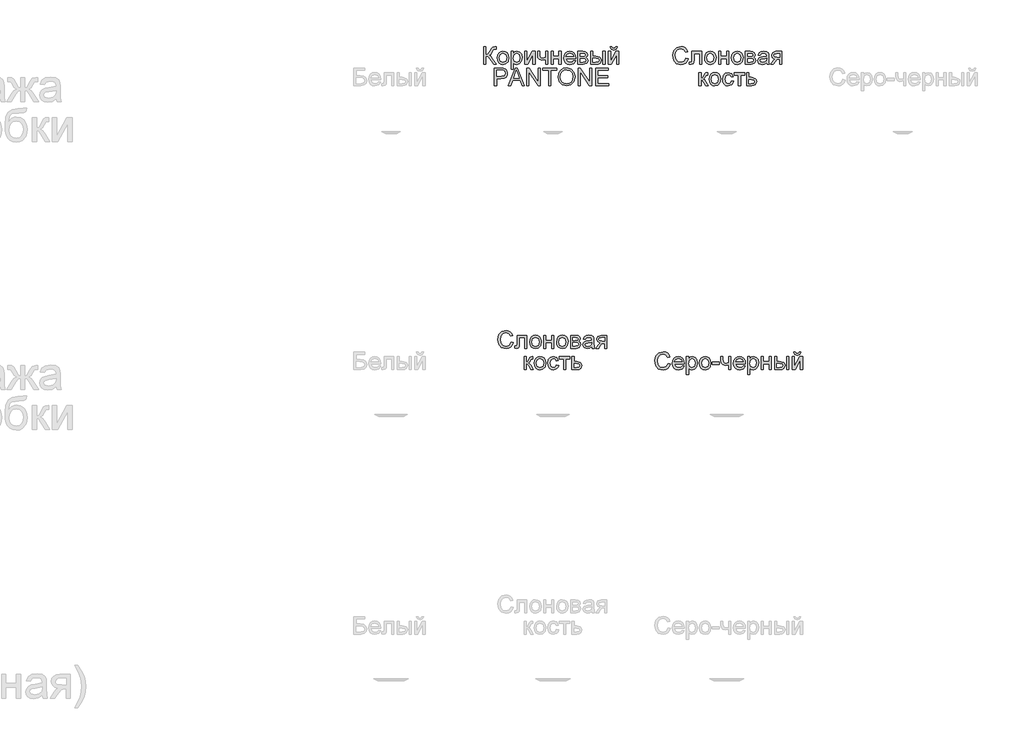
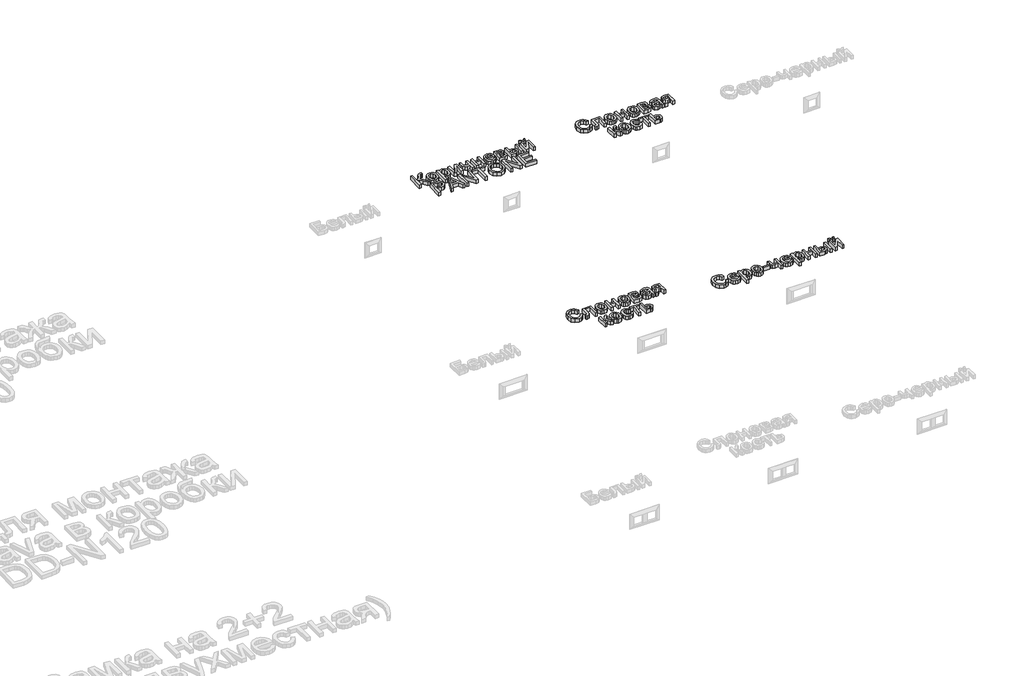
# One storey, part 45 of 47: 4 proxies.
"""IFC4 building model written with IfcOpenShell, lengths in millimetres."""

from ifc_helpers import new_model, si_unit, origin, origin_with_axes, place, context, project, spatial, polyline, outline, extrude, element, save

model = new_model("IFC4")

# Units and contexts
model_context = context("Model", 3, world=origin())
ifc_project = project(units=[si_unit("LENGTHUNIT", "METRE", prefix="MILLI")], contexts=[model_context])

# Site, building, storey
site = spatial("IfcSite", under=ifc_project)
building = spatial("IfcBuilding", under=site)
storey = spatial("IfcBuildingStorey", under=building, Name="Этаж 01", Elevation=0.0)

# Proxies
placement = place(None, origin())
element("IfcBuildingElementProxy", 1, Name="80 мм Arial", ObjectType="80 мм Arial", at=placement, inside=storey, context=model_context, shape_type="SweptSolid", body=[
    extrude(outline(polyline([(429.3644869, 4434.5225235), (439.4101179, 4434.5225235), (439.4101179, 4399.362815), (450.6427815, 4402.0213755), (458.4811205, 4415.4711413), (464.0238759, 4426.7038049), (470.3023953, 4432.2661806), (479.278716, 4434.5225235), (485.8711613, 4434.4048013), (485.8711613, 4424.3591703), (483.6540592, 4424.4180314), (481.436957, 4424.4768925), (473.5888078, 4422.0635866), (467.6242144, 4411.72365), (460.5118291, 4399.1273705), (453.5760273, 4394.9678514), (461.3309797, 4390.425735), (468.9780201, 4380.958905), (485.8711613, 4354.1574754), (474.2166597, 4354.1574754), (459.9330281, 4376.7993859), (449.8775869, 4388.6206607), (439.4101179, 4391.8285917), (439.4101179, 4354.1574754), (429.3644869, 4354.1574754), (429.3644869, 4434.5225235)])), origin_with_axes(), (0.0, 0.0, 1.0), 20.0),
    extrude(outline(polyline([(490.8939768, 4383.6665165), (493.0669332, 4397.8961921), (499.5858021, 4407.8976773), (507.6399653, 4412.7978654), (517.2833786, 4414.4312615), (527.8366868, 4412.4422462), (536.2660896, 4406.4752002), (541.7916772, 4397.0010126), (543.6335397, 4384.4905722), (540.3765577, 4366.6164123), (530.8901074, 4356.50211), (517.2833786, 4352.9017715), (506.602538, 4354.8834292), (498.1829454, 4360.8284023), (492.716219, 4370.5012462), (490.8939768, 4383.6665165)]), holes=[polyline([(500.9396079, 4383.6861369), (505.5896363, 4368.1173709), (517.2833786, 4362.9474026), (528.9378802, 4368.1468014), (533.5879087, 4384.0000629), (528.9084497, 4399.2156622), (517.2833786, 4404.3856305), (505.5896363, 4399.2352826), (500.9396079, 4383.6861369)])]), origin_with_axes(), (0.0, 0.0, 1.0), 20.0),
    extrude(outline(polyline([(554.9348746, 4331.5548056), (554.9348746, 4413.1755576), (564.9805056, 4413.1755576), (564.9805056, 4403.3261303), (571.9261177, 4411.6549787), (581.304656, 4414.4312615), (594.0382781, 4410.5464276), (602.3573163, 4399.5982595), (605.1630296, 4384.1177851), (601.9943394, 4367.8426856), (592.7923844, 4356.7571749), (580.0881929, 4352.9017715), (571.3473166, 4355.4818506), (564.9805056, 4362.0056246), (564.9805056, 4331.5548056), (554.9348746, 4331.5548056)]), holes=[polyline([(564.9805056, 4383.1956276), (569.3264182, 4367.8917366), (579.8723687, 4362.9474026), (590.6341434, 4368.0683199), (595.1173986, 4383.9412017), (590.7420554, 4399.2843335), (580.2843966, 4404.3856305), (569.6207238, 4398.9605973), (564.9805056, 4383.1956276)])]), origin_with_axes(), (0.0, 0.0, 1.0), 20.0),
    extrude(outline(polyline([(616.4643645, 4413.1755576), (626.5099955, 4413.1755576), (626.5099955, 4368.1664218), (651.1924249, 4413.1755576), (664.1811119, 4413.1755576), (664.1811119, 4354.1574754), (654.1354808, 4354.1574754), (654.1354808, 4398.891926), (629.6100145, 4354.1574754), (616.4643645, 4354.1574754), (616.4643645, 4413.1755576)])), origin_with_axes(), (0.0, 0.0, 1.0), 20.0),
    extrude(outline(polyline([(675.4824467, 4413.1755576), (685.5280778, 4413.1755576), (685.5280778, 4401.8546024), (686.3423232, 4391.2399805), (690.2565877, 4385.4912112), (698.0262554, 4383.0386646), (711.8978592, 4386.0798224), (711.8978592, 4413.1755576), (721.9434902, 4413.1755576), (721.9434902, 4354.1574754), (711.8978592, 4354.1574754), (711.8978592, 4376.4462192), (695.3382643, 4372.9930336), (683.9486377, 4376.593372), (677.2482803, 4385.4127297), (675.4824467, 4396.890648), (675.4824467, 4413.1755576)])), origin_with_axes(), (0.0, 0.0, 1.0), 20.0),
    extrude(outline(polyline([(737.0119367, 4413.1755576), (747.0575677, 4413.1755576), (747.0575677, 4390.5728878), (773.4273491, 4390.5728878), (773.4273491, 4413.1755576), (783.4729802, 4413.1755576), (783.4729802, 4354.1574754), (773.4273491, 4354.1574754), (773.4273491, 4380.5272568), (747.0575677, 4380.5272568), (747.0575677, 4354.1574754), (737.0119367, 4354.1574754), (737.0119367, 4413.1755576)])), origin_with_axes(), (0.0, 0.0, 1.0), 20.0),
    extrude(outline(polyline([(839.8619324, 4371.7373297), (849.7113597, 4370.4816258), (840.4995945, 4357.5125592), (823.3415782, 4352.9017715), (811.5546391, 4354.8907869), (802.4851217, 4360.8578328), (796.7020167, 4370.4154071), (794.774315, 4383.1760072), (796.7216371, 4396.365803), (802.5636032, 4406.2299456), (811.5104933, 4412.3809325), (822.7725874, 4414.4312615), (833.6839674, 4412.3858376), (842.4027707, 4406.2495659), (848.1196569, 4396.4050437), (850.0252856, 4383.2348683), (849.9664245, 4380.5272568), (804.8199461, 4380.5272568), (810.5981459, 4367.4797087), (823.537782, 4362.9474026), (833.3872093, 4365.0467825), (839.8619324, 4371.7373297)]), holes=[polyline([(804.8199461, 4390.5728878), (839.9796546, 4390.5728878), (835.9574781, 4399.676741), (822.7333467, 4404.3856305), (810.3627015, 4400.628329), (804.8199461, 4390.5728878)])]), origin_with_axes(), (0.0, 0.0, 1.0), 20.0),
    extrude(outline(polyline([(860.0709166, 4413.1755576), (882.2026975, 4413.1755576), (894.3378982, 4411.8315621), (901.1657881, 4406.9068484), (904.0205523, 4398.3229352), (902.2939595, 4391.3478926), (897.0945606, 4386.374128), (903.843969, 4380.9294745), (906.5319601, 4371.4626445), (900.7831908, 4358.4150964), (885.597022, 4354.1574754), (860.0709166, 4354.1574754), (860.0709166, 4413.1755576)]), holes=[polyline([(870.1165477, 4364.2031064), (882.438142, 4364.2031064), (893.3666898, 4366.0179909), (896.4863291, 4372.2867001), (894.7695464, 4377.1231221), (890.2961014, 4379.9386456), (881.4571233, 4380.5272568), (870.1165477, 4380.5272568), (870.1165477, 4364.2031064)]), polyline([(870.1165477, 4390.5728878), (880.0444564, 4390.5728878), (888.2359622, 4391.0830175), (892.2188979, 4393.1235363), (893.9749213, 4396.8121665), (890.8945227, 4401.7368801), (880.3583824, 4403.1299266), (870.1165477, 4403.1299266), (870.1165477, 4390.5728878)])]), origin_with_axes(), (0.0, 0.0, 1.0), 20.0),
    extrude(outline(polyline([(974.3399694, 4413.1755576), (984.3856005, 4413.1755576), (984.3856005, 4354.1574754), (974.3399694, 4354.1574754), (974.3399694, 4413.1755576)])), origin_with_axes(), (0.0, 0.0, 1.0), 20.0),
    extrude(outline(polyline([(919.0889989, 4413.1755576), (929.1346299, 4413.1755576), (929.1346299, 4391.8285917), (941.554326, 4391.8285917), (960.2427314, 4386.795966), (965.1649925, 4380.8092997), (966.8057462, 4372.9145521), (961.3022315, 4359.6609901), (954.1530581, 4355.5333541), (943.7125671, 4354.1574754), (919.0889989, 4354.1574754), (919.0889989, 4413.1755576)]), holes=[polyline([(929.1346299, 4364.2031064), (939.4549461, 4364.2031064), (952.7771794, 4366.3122965), (956.7601152, 4372.8949317), (953.807249, 4379.0753492), (940.7695111, 4381.7829607), (929.1346299, 4381.7829607), (929.1346299, 4364.2031064)])]), origin_with_axes(), (0.0, 0.0, 1.0), 20.0),
    extrude(outline(polyline([(999.454047, 4413.1755576), (1009.499678, 4413.1755576), (1009.499678, 4368.1664218), (1034.1821073, 4413.1755576), (1047.1707943, 4413.1755576), (1047.1707943, 4354.1574754), (1037.1251633, 4354.1574754), (1037.1251633, 4398.891926), (1012.5996969, 4354.1574754), (999.454047, 4354.1574754), (999.454047, 4413.1755576)])), origin_with_axes(), (0.0, 0.0, 1.0), 20.0),
    extrude(outline(polyline([(1032.1023478, 4434.5225235), (1039.636571, 4434.5225235), (1034.7609083, 4423.3487211), (1023.9402726, 4419.454077), (1012.2269099, 4423.3192905), (1006.9882702, 4434.5225235), (1014.5224935, 4434.5225235), (1017.3478272, 4428.8620459), (1023.0377354, 4426.9883003), (1029.2770141, 4428.8031848), (1032.1023478, 4434.5225235)])), origin_with_axes(), (0.0, 0.0, 1.0), 20.0),
    extrude(outline(polyline([(477.7090861, 4256.5776211), (477.7090861, 4336.9426693), (507.4928125, 4336.9426693), (519.5004808, 4336.1774747), (529.2616164, 4332.4201733), (535.5891867, 4324.6505055), (537.9828722, 4313.6925272), (536.366644, 4304.2207921), (531.5179593, 4296.328497), (522.4508944, 4291.0015657), (508.1795255, 4289.2259219), (487.7547172, 4289.2259219), (487.7547172, 4256.5776211), (477.7090861, 4256.5776211)]), holes=[polyline([(487.7547172, 4299.271553), (508.7681367, 4299.271553), (523.561898, 4302.9601831), (527.9372412, 4313.3393605), (525.3571622, 4321.6583986), (518.5783233, 4326.2103252), (508.5326922, 4326.8970382), (487.7547172, 4326.8970382), (487.7547172, 4299.271553)])]), origin_with_axes(), (0.0, 0.0, 1.0), 20.0),
    extrude(outline(polyline([(542.4366969, 4256.5776211), (574.5160069, 4336.9426693), (583.0704896, 4336.9426693), (615.1497995, 4256.5776211), (604.5351777, 4256.5776211), (595.3332227, 4281.6916987), (562.2336534, 4281.6916987), (553.0513188, 4256.5776211), (542.4366969, 4256.5776211)]), holes=[polyline([(565.9222835, 4291.7373297), (591.664213, 4291.7373297), (584.4242953, 4311.4950454), (578.7932482, 4326.8970382), (573.7900531, 4313.2216382), (565.9222835, 4291.7373297)])]), origin_with_axes(), (0.0, 0.0, 1.0), 20.0),
    extrude(outline(polyline([(625.8821436, 4256.5776211), (625.8821436, 4336.9426693), (636.6341081, 4336.9426693), (678.6217064, 4273.2745586), (678.6217064, 4336.9426693), (688.6673375, 4336.9426693), (688.6673375, 4256.5776211), (677.915373, 4256.5776211), (635.9277746, 4320.2653521), (635.9277746, 4256.5776211), (625.8821436, 4256.5776211)])), origin_with_axes(), (0.0, 0.0, 1.0), 20.0),
    extrude(outline(polyline([(726.3384538, 4256.5776211), (726.3384538, 4326.8970382), (699.9686723, 4326.8970382), (699.9686723, 4336.9426693), (762.7538662, 4336.9426693), (762.7538662, 4326.8970382), (736.3840848, 4326.8970382), (736.3840848, 4256.5776211), (726.3384538, 4256.5776211)])), origin_with_axes(), (0.0, 0.0, 1.0), 20.0),
    extrude(outline(polyline([(770.2880894, 4295.7006451), (772.9662704, 4313.471798), (781.0008131, 4326.9166586), (793.2684514, 4335.3779445), (808.6459188, 4338.1983731), (828.639079, 4332.9008724), (842.2163771, 4318.1267315), (846.8860259, 4296.6228026), (841.9711225, 4274.8245681), (828.0406576, 4260.2662513), (808.5870577, 4255.3219173), (788.3780734, 4260.7861912), (774.8792567, 4275.6976747), (770.2880894, 4295.7006451)]), holes=[polyline([(780.3337205, 4295.6025432), (782.3423562, 4283.0307891), (788.3682632, 4273.451142), (797.425518, 4267.3884467), (808.5281966, 4265.3675483), (819.7927433, 4267.4080671), (828.8647133, 4273.5296235), (834.8464745, 4283.4035762), (836.8403949, 4296.7012841), (833.42645, 4313.2804993), (823.4494903, 4324.2580981), (808.7047799, 4328.1527421), (797.8988595, 4326.2765439), (788.7116198, 4320.6479494), (782.4281953, 4310.6342015), (780.3337205, 4295.6025432)])]), origin_with_axes(), (0.0, 0.0, 1.0), 20.0),
    extrude(outline(polyline([(860.6987686, 4256.5776211), (860.6987686, 4336.9426693), (871.450733, 4336.9426693), (913.4383314, 4273.2745586), (913.4383314, 4336.9426693), (923.4839624, 4336.9426693), (923.4839624, 4256.5776211), (912.731998, 4256.5776211), (870.7443996, 4320.2653521), (870.7443996, 4256.5776211), (860.6987686, 4256.5776211)])), origin_with_axes(), (0.0, 0.0, 1.0), 20.0),
    extrude(outline(polyline([(941.0638167, 4256.5776211), (941.0638167, 4336.9426693), (998.826195, 4336.9426693), (998.826195, 4326.8970382), (951.1094477, 4326.8970382), (951.1094477, 4303.0386646), (996.3147873, 4303.0386646), (996.3147873, 4292.9930336), (951.1094477, 4292.9930336), (951.1094477, 4266.6232522), (1000.0818989, 4266.6232522), (1000.0818989, 4256.5776211), (941.0638167, 4256.5776211)])), origin_with_axes(), (0.0, 0.0, 1.0), 20.0),
])
element("IfcBuildingElementProxy", 2, Name="80 мм Arial", ObjectType="80 мм Arial", at=placement, inside=storey, context=model_context, shape_type="SweptSolid", body=[
    extrude(outline(polyline([(1354.1498044, 4382.7247386), (1364.1954354, 4380.1348494), (1359.5601223, 4368.4288443), (1352.2858689, 4359.8768142), (1342.7307473, 4354.6455322), (1331.252829, 4352.9017715), (1310.3473215, 4358.1796519), (1298.0845883, 4373.4639225), (1293.8760183, 4394.948231), (1298.6339588, 4416.7857063), (1312.162206, 4430.9418055), (1331.4686531, 4435.7782274), (1342.48304, 4434.2135027), (1351.5893457, 4429.5193284), (1358.5030747, 4421.9851051), (1362.9397315, 4411.9002334), (1352.8941005, 4409.5065479), (1344.6535438, 4421.8575727), (1331.0762456, 4425.7325964), (1315.3603268, 4421.4357347), (1306.482108, 4409.8989553), (1303.9216493, 4394.9678514), (1306.9529969, 4377.6626824), (1316.3903964, 4366.6066021), (1330.25219, 4362.9474026), (1345.6247523, 4367.9309773), (1354.1498044, 4382.7247386)])), origin_with_axes(), (0.0, 0.0, 1.0), 20.0),
    extrude(outline(polyline([(1381.7752897, 4413.1755576), (1426.9806292, 4413.1755576), (1426.9806292, 4354.2163365), (1416.9349982, 4354.2163365), (1416.9349982, 4403.1299266), (1391.8209207, 4403.1299266), (1391.8209207, 4374.9746913), (1391.1440178, 4361.9860043), (1387.4259571, 4356.50211), (1378.63603, 4354.1574754), (1370.4739548, 4354.6676051), (1370.4739548, 4364.2031064), (1374.9670202, 4364.2031064), (1379.5091366, 4364.8211482), (1381.3240211, 4366.7831855), (1381.7752897, 4375.5436821), (1381.7752897, 4413.1755576)])), origin_with_axes(), (0.0, 0.0, 1.0), 20.0),
    extrude(outline(polyline([(1439.537668, 4383.6665165), (1441.7106243, 4397.8961921), (1448.2294933, 4407.8976773), (1456.2836564, 4412.7978654), (1465.9270698, 4414.4312615), (1476.480378, 4412.4422462), (1484.9097807, 4406.4752002), (1490.4353683, 4397.0010126), (1492.2772308, 4384.4905722), (1489.0202489, 4366.6164123), (1479.5337985, 4356.50211), (1465.9270698, 4352.9017715), (1455.2462292, 4354.8834292), (1446.8266366, 4360.8284023), (1441.3599102, 4370.5012462), (1439.537668, 4383.6665165)]), holes=[polyline([(1449.583299, 4383.6861369), (1454.2333274, 4368.1173709), (1465.9270698, 4362.9474026), (1477.5815714, 4368.1468014), (1482.2315998, 4384.0000629), (1477.5521408, 4399.2156622), (1465.9270698, 4404.3856305), (1454.2333274, 4399.2352826), (1449.583299, 4383.6861369)])]), origin_with_axes(), (0.0, 0.0, 1.0), 20.0),
    extrude(outline(polyline([(1503.5785657, 4413.1755576), (1513.6241967, 4413.1755576), (1513.6241967, 4390.5728878), (1539.9939782, 4390.5728878), (1539.9939782, 4413.1755576), (1550.0396092, 4413.1755576), (1550.0396092, 4354.1574754), (1539.9939782, 4354.1574754), (1539.9939782, 4380.5272568), (1513.6241967, 4380.5272568), (1513.6241967, 4354.1574754), (1503.5785657, 4354.1574754), (1503.5785657, 4413.1755576)])), origin_with_axes(), (0.0, 0.0, 1.0), 20.0),
    extrude(outline(polyline([(1562.5966479, 4383.6665165), (1564.7696043, 4397.8961921), (1571.2884732, 4407.8976773), (1579.3426364, 4412.7978654), (1588.9860497, 4414.4312615), (1599.5393579, 4412.4422462), (1607.9687607, 4406.4752002), (1613.4943483, 4397.0010126), (1615.3362108, 4384.4905722), (1612.0792288, 4366.6164123), (1602.5927785, 4356.50211), (1588.9860497, 4352.9017715), (1578.3052091, 4354.8834292), (1569.8856165, 4360.8284023), (1564.4188901, 4370.5012462), (1562.5966479, 4383.6665165)]), holes=[polyline([(1572.642279, 4383.6861369), (1577.2923074, 4368.1173709), (1588.9860497, 4362.9474026), (1600.6405513, 4368.1468014), (1605.2905798, 4384.0000629), (1600.6111208, 4399.2156622), (1588.9860497, 4404.3856305), (1577.2923074, 4399.2352826), (1572.642279, 4383.6861369)])]), origin_with_axes(), (0.0, 0.0, 1.0), 20.0),
    extrude(outline(polyline([(1626.6375457, 4413.1755576), (1648.7693265, 4413.1755576), (1660.9045272, 4411.8315621), (1667.7324171, 4406.9068484), (1670.5871814, 4398.3229352), (1668.8605885, 4391.3478926), (1663.6611897, 4386.374128), (1670.410598, 4380.9294745), (1673.0985891, 4371.4626445), (1667.3498198, 4358.4150964), (1652.163651, 4354.1574754), (1626.6375457, 4354.1574754), (1626.6375457, 4413.1755576)]), holes=[polyline([(1636.6831767, 4390.5728878), (1646.6110855, 4390.5728878), (1654.8025912, 4391.0830175), (1658.7855269, 4393.1235363), (1660.5415503, 4396.8121665), (1657.4611518, 4401.7368801), (1646.9250114, 4403.1299266), (1636.6831767, 4403.1299266), (1636.6831767, 4390.5728878)]), polyline([(1636.6831767, 4364.2031064), (1649.004771, 4364.2031064), (1659.9333188, 4366.0179909), (1663.0529581, 4372.2867001), (1661.3361754, 4377.1231221), (1656.8627304, 4379.9386456), (1648.0237523, 4380.5272568), (1636.6831767, 4380.5272568), (1636.6831767, 4364.2031064)])]), origin_with_axes(), (0.0, 0.0, 1.0), 20.0),
    extrude(outline(polyline([(1723.3267442, 4361.6916987), (1713.585229, 4354.8834292), (1702.8234543, 4352.9017715), (1688.2357069, 4357.6695222), (1683.1442201, 4369.8537739), (1685.0670167, 4377.800025), (1690.1192628, 4383.5684147), (1697.1531665, 4386.8646373), (1705.8449918, 4388.3754061), (1723.2678831, 4391.8285917), (1723.3267442, 4394.0653143), (1720.5602716, 4401.4818153), (1709.4551404, 4404.3856305), (1699.2917872, 4402.4530237), (1694.445555, 4395.5957034), (1684.399924, 4396.8514072), (1688.7458366, 4406.6615938), (1697.496523, 4412.4103631), (1710.750085, 4414.4312615), (1722.9245265, 4412.6458076), (1729.8014673, 4408.1625523), (1732.8818659, 4401.3444727), (1733.3723752, 4392.5545455), (1733.3723752, 4380.0563679), (1733.8825049, 4362.604046), (1735.883783, 4354.1574754), (1725.8381519, 4354.1574754), (1723.3267442, 4361.6916987)]), holes=[polyline([(1723.3267442, 4381.7829607), (1707.120316, 4378.7025621), (1698.4775417, 4377.0740712), (1694.5632773, 4374.4253208), (1693.1898511, 4370.5601073), (1696.181958, 4365.125264), (1704.962075, 4362.9474026), (1715.1254282, 4365.3508983), (1721.6786328, 4371.1683389), (1723.2678831, 4378.9380066), (1723.3267442, 4381.7829607)])]), origin_with_axes(), (0.0, 0.0, 1.0), 20.0),
    extrude(outline(polyline([(1792.3904574, 4413.1755576), (1792.3904574, 4354.1574754), (1782.3448264, 4354.1574754), (1782.3448264, 4376.7601452), (1776.8707423, 4376.7601452), (1769.4150005, 4375.484821), (1762.4105274, 4366.9107179), (1754.4054151, 4354.1574754), (1742.7901543, 4354.1574754), (1752.875026, 4370.2854221), (1761.4295087, 4378.643701), (1749.7357663, 4384.745637), (1745.929414, 4396.1254534), (1751.1288128, 4408.4470477), (1766.177639, 4413.1755576), (1792.3904574, 4413.1755576)]), holes=[polyline([(1782.3448264, 4403.1299266), (1769.1010746, 4403.1299266), (1758.3785407, 4400.8049124), (1755.975045, 4395.3602589), (1759.5165223, 4388.8757256), (1772.0637509, 4386.8057762), (1782.3448264, 4386.8057762), (1782.3448264, 4403.1299266)])]), origin_with_axes(), (0.0, 0.0, 1.0), 20.0),
    extrude(outline(polyline([(1413.7957385, 4315.5957034), (1423.8413695, 4315.5957034), (1423.8413695, 4290.4816258), (1430.5711575, 4292.2867001), (1436.0844823, 4302.8032201), (1440.6658395, 4311.8776427), (1444.7076363, 4314.8305088), (1452.055466, 4315.5957034), (1453.9782626, 4315.5957034), (1453.9782626, 4305.4912112), (1451.2706511, 4305.5500723), (1446.3655578, 4304.4905722), (1442.9123722, 4297.8785065), (1438.8607651, 4290.7268805), (1433.1806671, 4287.2246439), (1439.5180476, 4283.3152846), (1445.7377059, 4275.079633), (1456.4896703, 4256.5776211), (1445.0706132, 4256.5776211), (1434.5344729, 4274.6872255), (1429.2369721, 4282.3489812), (1423.8413695, 4284.2031064), (1423.8413695, 4256.5776211), (1413.7957385, 4256.5776211), (1413.7957385, 4315.5957034)])), origin_with_axes(), (0.0, 0.0, 1.0), 20.0),
    extrude(outline(polyline([(1460.256782, 4286.0866622), (1462.4297383, 4300.3163378), (1468.9486073, 4310.317823), (1477.0027704, 4315.2180112), (1486.6461838, 4316.8514072), (1497.1994919, 4314.8623919), (1505.6288947, 4308.8953459), (1511.1544823, 4299.4211583), (1512.9963448, 4286.9107179), (1509.7393629, 4269.036558), (1500.2529125, 4258.9222557), (1486.6461838, 4255.3219173), (1475.9653432, 4257.3035749), (1467.5457506, 4263.248548), (1462.0790241, 4272.9213919), (1460.256782, 4286.0866622)]), holes=[polyline([(1470.302413, 4286.1062826), (1474.9524414, 4270.5375166), (1486.6461838, 4265.3675483), (1498.3006854, 4270.5669471), (1502.9507138, 4286.4202086), (1498.2712548, 4301.6358079), (1486.6461838, 4306.8057762), (1474.9524414, 4301.6554283), (1470.302413, 4286.1062826)])]), origin_with_axes(), (0.0, 0.0, 1.0), 20.0),
    extrude(outline(polyline([(1561.968796, 4277.924587), (1572.014427, 4276.6688832), (1569.2136188, 4267.7342558), (1563.9504537, 4260.9823949), (1548.0187107, 4255.3219173), (1537.3329651, 4257.2962173), (1528.9771387, 4263.2191174), (1523.5839886, 4272.8306477), (1521.7862719, 4285.8708381), (1524.8568603, 4302.5579654), (1534.2157783, 4313.2804993), (1547.8813681, 4316.8514072), (1563.1558286, 4311.946314), (1570.7587231, 4298.0158491), (1560.7130921, 4296.7601452), (1556.0532535, 4304.2845583), (1547.9598496, 4306.8057762), (1536.3151582, 4301.8418218), (1531.831903, 4286.1455234), (1536.2170563, 4270.3020721), (1547.6851644, 4265.3675483), (1557.1519944, 4268.4479469), (1561.968796, 4277.924587)])), origin_with_axes(), (0.0, 0.0, 1.0), 20.0),
    extrude(outline(polyline([(1575.7815387, 4315.5957034), (1623.498286, 4315.5957034), (1623.498286, 4305.5500723), (1604.6627278, 4305.5500723), (1604.6627278, 4256.5776211), (1594.6170968, 4256.5776211), (1594.6170968, 4305.5500723), (1575.7815387, 4305.5500723), (1575.7815387, 4315.5957034)])), origin_with_axes(), (0.0, 0.0, 1.0), 20.0),
    extrude(outline(polyline([(1632.2882131, 4315.5957034), (1642.3338441, 4315.5957034), (1642.3338441, 4294.2487374), (1653.9098642, 4294.2487374), (1671.3719963, 4289.2161118), (1675.9631636, 4283.2294454), (1677.4935527, 4275.3346978), (1672.2843436, 4262.0811358), (1665.5128624, 4257.9534998), (1655.6168367, 4256.5776211), (1632.2882131, 4256.5776211), (1632.2882131, 4315.5957034)]), holes=[polyline([(1642.3338441, 4266.6232522), (1651.7123825, 4266.6232522), (1663.8279628, 4268.7324423), (1667.4479217, 4275.3150774), (1664.7697407, 4281.4954949), (1652.9092252, 4284.2031064), (1642.3338441, 4284.2031064), (1642.3338441, 4266.6232522)])]), origin_with_axes(), (0.0, 0.0, 1.0), 20.0),
])
element("IfcBuildingElementProxy", 3, Name="80 мм Arial", ObjectType="80 мм Arial", at=placement, inside=storey, context=model_context, shape_type="SweptSolid", body=[
    extrude(outline(polyline([(554.1498044, 3082.7247386), (564.1954354, 3080.1348494), (559.5601223, 3068.4288443), (552.2858689, 3059.8768142), (542.7307473, 3054.6455322), (531.252829, 3052.9017715), (510.3473215, 3058.1796519), (498.0845883, 3073.4639225), (493.8760183, 3094.948231), (498.6339588, 3116.7857063), (512.162206, 3130.9418055), (531.4686531, 3135.7782274), (542.48304, 3134.2135027), (551.5893457, 3129.5193284), (558.5030747, 3121.9851051), (562.9397315, 3111.9002334), (552.8941005, 3109.5065479), (544.6535438, 3121.8575727), (531.0762456, 3125.7325964), (515.3603268, 3121.4357347), (506.482108, 3109.8989553), (503.9216493, 3094.9678514), (506.9529969, 3077.6626824), (516.3903964, 3066.6066021), (530.25219, 3062.9474026), (545.6247523, 3067.9309773), (554.1498044, 3082.7247386)])), origin_with_axes(), (0.0, 0.0, 1.0), 20.0),
    extrude(outline(polyline([(581.7752897, 3113.1755576), (626.9806292, 3113.1755576), (626.9806292, 3054.2163365), (616.9349982, 3054.2163365), (616.9349982, 3103.1299266), (591.8209207, 3103.1299266), (591.8209207, 3074.9746913), (591.1440178, 3061.9860043), (587.4259571, 3056.50211), (578.63603, 3054.1574754), (570.4739548, 3054.6676051), (570.4739548, 3064.2031064), (574.9670202, 3064.2031064), (579.5091366, 3064.8211482), (581.3240211, 3066.7831855), (581.7752897, 3075.5436821), (581.7752897, 3113.1755576)])), origin_with_axes(), (0.0, 0.0, 1.0), 20.0),
    extrude(outline(polyline([(639.537668, 3083.6665165), (641.7106243, 3097.8961921), (648.2294933, 3107.8976773), (656.2836564, 3112.7978654), (665.9270698, 3114.4312615), (676.480378, 3112.4422462), (684.9097807, 3106.4752002), (690.4353683, 3097.0010126), (692.2772308, 3084.4905722), (689.0202489, 3066.6164123), (679.5337985, 3056.50211), (665.9270698, 3052.9017715), (655.2462292, 3054.8834292), (646.8266366, 3060.8284023), (641.3599102, 3070.5012462), (639.537668, 3083.6665165)]), holes=[polyline([(649.583299, 3083.6861369), (654.2333274, 3068.1173709), (665.9270698, 3062.9474026), (677.5815714, 3068.1468014), (682.2315998, 3084.0000629), (677.5521408, 3099.2156622), (665.9270698, 3104.3856305), (654.2333274, 3099.2352826), (649.583299, 3083.6861369)])]), origin_with_axes(), (0.0, 0.0, 1.0), 20.0),
    extrude(outline(polyline([(703.5785657, 3113.1755576), (713.6241967, 3113.1755576), (713.6241967, 3090.5728878), (739.9939782, 3090.5728878), (739.9939782, 3113.1755576), (750.0396092, 3113.1755576), (750.0396092, 3054.1574754), (739.9939782, 3054.1574754), (739.9939782, 3080.5272568), (713.6241967, 3080.5272568), (713.6241967, 3054.1574754), (703.5785657, 3054.1574754), (703.5785657, 3113.1755576)])), origin_with_axes(), (0.0, 0.0, 1.0), 20.0),
    extrude(outline(polyline([(762.5966479, 3083.6665165), (764.7696043, 3097.8961921), (771.2884732, 3107.8976773), (779.3426364, 3112.7978654), (788.9860497, 3114.4312615), (799.5393579, 3112.4422462), (807.9687607, 3106.4752002), (813.4943483, 3097.0010126), (815.3362108, 3084.4905722), (812.0792288, 3066.6164123), (802.5927785, 3056.50211), (788.9860497, 3052.9017715), (778.3052091, 3054.8834292), (769.8856165, 3060.8284023), (764.4188901, 3070.5012462), (762.5966479, 3083.6665165)]), holes=[polyline([(772.642279, 3083.6861369), (777.2923074, 3068.1173709), (788.9860497, 3062.9474026), (800.6405513, 3068.1468014), (805.2905798, 3084.0000629), (800.6111208, 3099.2156622), (788.9860497, 3104.3856305), (777.2923074, 3099.2352826), (772.642279, 3083.6861369)])]), origin_with_axes(), (0.0, 0.0, 1.0), 20.0),
    extrude(outline(polyline([(826.6375457, 3113.1755576), (848.7693265, 3113.1755576), (860.9045272, 3111.8315621), (867.7324171, 3106.9068484), (870.5871814, 3098.3229352), (868.8605885, 3091.3478926), (863.6611897, 3086.374128), (870.410598, 3080.9294745), (873.0985891, 3071.4626445), (867.3498198, 3058.4150964), (852.163651, 3054.1574754), (826.6375457, 3054.1574754), (826.6375457, 3113.1755576)]), holes=[polyline([(836.6831767, 3090.5728878), (846.6110855, 3090.5728878), (854.8025912, 3091.0830175), (858.7855269, 3093.1235363), (860.5415503, 3096.8121665), (857.4611518, 3101.7368801), (846.9250114, 3103.1299266), (836.6831767, 3103.1299266), (836.6831767, 3090.5728878)]), polyline([(836.6831767, 3064.2031064), (849.004771, 3064.2031064), (859.9333188, 3066.0179909), (863.0529581, 3072.2867001), (861.3361754, 3077.1231221), (856.8627304, 3079.9386456), (848.0237523, 3080.5272568), (836.6831767, 3080.5272568), (836.6831767, 3064.2031064)])]), origin_with_axes(), (0.0, 0.0, 1.0), 20.0),
    extrude(outline(polyline([(923.3267442, 3061.6916987), (913.585229, 3054.8834292), (902.8234543, 3052.9017715), (888.2357069, 3057.6695222), (883.1442201, 3069.8537739), (885.0670167, 3077.800025), (890.1192628, 3083.5684147), (897.1531665, 3086.8646373), (905.8449918, 3088.3754061), (923.2678831, 3091.8285917), (923.3267442, 3094.0653143), (920.5602716, 3101.4818153), (909.4551404, 3104.3856305), (899.2917872, 3102.4530237), (894.445555, 3095.5957034), (884.399924, 3096.8514072), (888.7458366, 3106.6615938), (897.496523, 3112.4103631), (910.750085, 3114.4312615), (922.9245265, 3112.6458076), (929.8014673, 3108.1625523), (932.8818659, 3101.3444727), (933.3723752, 3092.5545455), (933.3723752, 3080.0563679), (933.8825049, 3062.604046), (935.883783, 3054.1574754), (925.8381519, 3054.1574754), (923.3267442, 3061.6916987)]), holes=[polyline([(923.3267442, 3081.7829607), (907.120316, 3078.7025621), (898.4775417, 3077.0740712), (894.5632773, 3074.4253208), (893.1898511, 3070.5601073), (896.181958, 3065.125264), (904.962075, 3062.9474026), (915.1254282, 3065.3508983), (921.6786328, 3071.1683389), (923.2678831, 3078.9380066), (923.3267442, 3081.7829607)])]), origin_with_axes(), (0.0, 0.0, 1.0), 20.0),
    extrude(outline(polyline([(992.3904574, 3113.1755576), (992.3904574, 3054.1574754), (982.3448264, 3054.1574754), (982.3448264, 3076.7601452), (976.8707423, 3076.7601452), (969.4150005, 3075.484821), (962.4105274, 3066.9107179), (954.4054151, 3054.1574754), (942.7901543, 3054.1574754), (952.875026, 3070.2854221), (961.4295087, 3078.643701), (949.7357663, 3084.745637), (945.929414, 3096.1254534), (951.1288128, 3108.4470477), (966.177639, 3113.1755576), (992.3904574, 3113.1755576)]), holes=[polyline([(982.3448264, 3103.1299266), (969.1010746, 3103.1299266), (958.3785407, 3100.8049124), (955.975045, 3095.3602589), (959.5165223, 3088.8757256), (972.0637509, 3086.8057762), (982.3448264, 3086.8057762), (982.3448264, 3103.1299266)])]), origin_with_axes(), (0.0, 0.0, 1.0), 20.0),
    extrude(outline(polyline([(613.7957385, 3015.5957034), (623.8413695, 3015.5957034), (623.8413695, 2990.4816258), (630.5711575, 2992.2867001), (636.0844823, 3002.8032201), (640.6658395, 3011.8776427), (644.7076363, 3014.8305088), (652.055466, 3015.5957034), (653.9782626, 3015.5957034), (653.9782626, 3005.4912112), (651.2706511, 3005.5500723), (646.3655578, 3004.4905722), (642.9123722, 2997.8785065), (638.8607651, 2990.7268805), (633.1806671, 2987.2246439), (639.5180476, 2983.3152846), (645.7377059, 2975.079633), (656.4896703, 2956.5776211), (645.0706132, 2956.5776211), (634.5344729, 2974.6872255), (629.2369721, 2982.3489812), (623.8413695, 2984.2031064), (623.8413695, 2956.5776211), (613.7957385, 2956.5776211), (613.7957385, 3015.5957034)])), origin_with_axes(), (0.0, 0.0, 1.0), 20.0),
    extrude(outline(polyline([(660.256782, 2986.0866622), (662.4297383, 3000.3163378), (668.9486073, 3010.317823), (677.0027704, 3015.2180112), (686.6461838, 3016.8514072), (697.1994919, 3014.8623919), (705.6288947, 3008.8953459), (711.1544823, 2999.4211583), (712.9963448, 2986.9107179), (709.7393629, 2969.036558), (700.2529125, 2958.9222557), (686.6461838, 2955.3219173), (675.9653432, 2957.3035749), (667.5457506, 2963.248548), (662.0790241, 2972.9213919), (660.256782, 2986.0866622)]), holes=[polyline([(670.302413, 2986.1062826), (674.9524414, 2970.5375166), (686.6461838, 2965.3675483), (698.3006854, 2970.5669471), (702.9507138, 2986.4202086), (698.2712548, 3001.6358079), (686.6461838, 3006.8057762), (674.9524414, 3001.6554283), (670.302413, 2986.1062826)])]), origin_with_axes(), (0.0, 0.0, 1.0), 20.0),
    extrude(outline(polyline([(761.968796, 2977.924587), (772.014427, 2976.6688832), (769.2136188, 2967.7342558), (763.9504537, 2960.9823949), (748.0187107, 2955.3219173), (737.3329651, 2957.2962173), (728.9771387, 2963.2191174), (723.5839886, 2972.8306477), (721.7862719, 2985.8708381), (724.8568603, 3002.5579654), (734.2157783, 3013.2804993), (747.8813681, 3016.8514072), (763.1558286, 3011.946314), (770.7587231, 2998.0158491), (760.7130921, 2996.7601452), (756.0532535, 3004.2845583), (747.9598496, 3006.8057762), (736.3151582, 3001.8418218), (731.831903, 2986.1455234), (736.2170563, 2970.3020721), (747.6851644, 2965.3675483), (757.1519944, 2968.4479469), (761.968796, 2977.924587)])), origin_with_axes(), (0.0, 0.0, 1.0), 20.0),
    extrude(outline(polyline([(775.7815387, 3015.5957034), (823.498286, 3015.5957034), (823.498286, 3005.5500723), (804.6627278, 3005.5500723), (804.6627278, 2956.5776211), (794.6170968, 2956.5776211), (794.6170968, 3005.5500723), (775.7815387, 3005.5500723), (775.7815387, 3015.5957034)])), origin_with_axes(), (0.0, 0.0, 1.0), 20.0),
    extrude(outline(polyline([(832.2882131, 3015.5957034), (842.3338441, 3015.5957034), (842.3338441, 2994.2487374), (853.9098642, 2994.2487374), (871.3719963, 2989.2161118), (875.9631636, 2983.2294454), (877.4935527, 2975.3346978), (872.2843436, 2962.0811358), (865.5128624, 2957.9534998), (855.6168367, 2956.5776211), (832.2882131, 2956.5776211), (832.2882131, 3015.5957034)]), holes=[polyline([(842.3338441, 2966.6232522), (851.7123825, 2966.6232522), (863.8279628, 2968.7324423), (867.4479217, 2975.3150774), (864.7697407, 2981.4954949), (852.9092252, 2984.2031064), (842.3338441, 2984.2031064), (842.3338441, 2966.6232522)])]), origin_with_axes(), (0.0, 0.0, 1.0), 20.0),
])
element("IfcBuildingElementProxy", 4, Name="80 мм Arial", ObjectType="80 мм Arial", at=placement, inside=storey, context=model_context, shape_type="SweptSolid", body=[
    extrude(outline(polyline([(1272.5444141, 2985.1448843), (1282.5900451, 2982.5549951), (1277.954732, 2970.84899), (1270.6804787, 2962.2969599), (1261.125357, 2957.0656779), (1249.6474387, 2955.3219173), (1228.7419312, 2960.5997976), (1216.4791981, 2975.8840682), (1212.270628, 2997.3683768), (1217.0285685, 3019.205852), (1230.5568157, 3033.3619512), (1249.8632628, 3038.1983731), (1260.8776498, 3036.6336484), (1269.9839554, 3031.9394741), (1276.8976844, 3024.4052509), (1281.3343413, 3014.3203791), (1271.2887102, 3011.9266936), (1263.0481536, 3024.2777184), (1249.4708554, 3028.1527421), (1233.7549366, 3023.8558804), (1224.8767177, 3012.3191011), (1222.3162591, 2997.3879971), (1225.3476067, 2980.0828281), (1234.7850061, 2969.0267479), (1248.6467997, 2965.3675483), (1264.019362, 2970.351123), (1272.5444141, 2985.1448843)])), origin_with_axes(), (0.0, 0.0, 1.0), 20.0),
    extrude(outline(polyline([(1336.4675896, 2974.1574754), (1346.3170169, 2972.9017715), (1337.1052517, 2959.9327049), (1319.9472355, 2955.3219173), (1308.1602964, 2957.3109326), (1299.0907789, 2963.2779785), (1293.3076739, 2972.8355528), (1291.3799723, 2985.5961529), (1293.3272943, 2998.7859487), (1299.1692604, 3008.6500913), (1308.1161505, 3014.8010782), (1319.3782447, 3016.8514072), (1330.2896246, 3014.8059833), (1339.0084279, 3008.6697117), (1344.7253141, 2998.8251895), (1346.6309429, 2985.655014), (1346.5720817, 2982.9474026), (1301.4256033, 2982.9474026), (1307.2038032, 2969.8998545), (1320.1434392, 2965.3675483), (1329.9928665, 2967.4669282), (1336.4675896, 2974.1574754)]), holes=[polyline([(1301.4256033, 2992.9930336), (1336.5853118, 2992.9930336), (1332.5631354, 3002.0968867), (1319.3390039, 3006.8057762), (1306.9683587, 3003.0484748), (1301.4256033, 2992.9930336)])]), origin_with_axes(), (0.0, 0.0, 1.0), 20.0),
    extrude(outline(polyline([(1356.6765739, 2933.9749514), (1356.6765739, 3015.5957034), (1366.7222049, 3015.5957034), (1366.7222049, 3005.7462761), (1373.667817, 3014.0751244), (1383.0463553, 3016.8514072), (1395.7799774, 3012.9665734), (1404.0990156, 3002.0184052), (1406.904729, 2986.5379308), (1403.7360387, 2970.2628314), (1394.5340837, 2959.1773206), (1381.8298922, 2955.3219173), (1373.089016, 2957.9019963), (1366.7222049, 2964.4257704), (1366.7222049, 2933.9749514), (1356.6765739, 2933.9749514)]), holes=[polyline([(1366.7222049, 2985.6157733), (1371.0681175, 2970.3118823), (1381.6140681, 2965.3675483), (1392.3758427, 2970.4884657), (1396.8590979, 2986.3613475), (1392.4837547, 3001.7044792), (1382.0260959, 3006.8057762), (1371.3624231, 3001.3807431), (1366.7222049, 2985.6157733)])]), origin_with_axes(), (0.0, 0.0, 1.0), 20.0),
    extrude(outline(polyline([(1415.6946561, 2986.0866622), (1417.8676124, 3000.3163378), (1424.3864814, 3010.317823), (1432.4406445, 3015.2180112), (1442.0840579, 3016.8514072), (1452.637366, 3014.8623919), (1461.0667688, 3008.8953459), (1466.5923564, 2999.4211583), (1468.4342189, 2986.9107179), (1465.177237, 2969.036558), (1455.6907866, 2958.9222557), (1442.0840579, 2955.3219173), (1431.4032173, 2957.3035749), (1422.9836247, 2963.248548), (1417.5168982, 2972.9213919), (1415.6946561, 2986.0866622)]), holes=[polyline([(1425.7402871, 2986.1062826), (1430.3903155, 2970.5375166), (1442.0840579, 2965.3675483), (1453.7385595, 2970.5669471), (1458.3885879, 2986.4202086), (1453.7091289, 3001.6358079), (1442.0840579, 3006.8057762), (1430.3903155, 3001.6554283), (1425.7402871, 2986.1062826)])]), origin_with_axes(), (0.0, 0.0, 1.0), 20.0),
    extrude(outline(polyline([(1474.7127383, 2980.4359948), (1474.7127383, 2990.4816258), (1506.1053352, 2990.4816258), (1506.1053352, 2980.4359948), (1474.7127383, 2980.4359948)])), origin_with_axes(), (0.0, 0.0, 1.0), 20.0),
    extrude(outline(polyline([(1513.6395585, 3015.5957034), (1523.6851895, 3015.5957034), (1523.6851895, 3004.2747481), (1524.499435, 2993.6601263), (1528.4136994, 2987.9113569), (1536.1833671, 2985.4588103), (1550.0549709, 2988.4999681), (1550.0549709, 3015.5957034), (1560.1006019, 3015.5957034), (1560.1006019, 2956.5776211), (1550.0549709, 2956.5776211), (1550.0549709, 2978.866365), (1533.495376, 2975.4131793), (1522.1057495, 2979.0135178), (1515.4053921, 2987.8328755), (1513.6395585, 2999.3107937), (1513.6395585, 3015.5957034)])), origin_with_axes(), (0.0, 0.0, 1.0), 20.0),
    extrude(outline(polyline([(1616.4895541, 2974.1574754), (1626.3389814, 2972.9017715), (1617.1272163, 2959.9327049), (1599.9692, 2955.3219173), (1588.1822609, 2957.3109326), (1579.1127434, 2963.2779785), (1573.3296385, 2972.8355528), (1571.4019368, 2985.5961529), (1573.3492588, 2998.7859487), (1579.1912249, 3008.6500913), (1588.1381151, 3014.8010782), (1599.4002092, 3016.8514072), (1610.3115892, 3014.8059833), (1619.0303925, 3008.6697117), (1624.7472787, 2998.8251895), (1626.6529074, 2985.655014), (1626.5940463, 2982.9474026), (1581.4475678, 2982.9474026), (1587.2257677, 2969.8998545), (1600.1654038, 2965.3675483), (1610.014831, 2967.4669282), (1616.4895541, 2974.1574754)]), holes=[polyline([(1581.4475678, 2992.9930336), (1616.6072764, 2992.9930336), (1612.5850999, 3002.0968867), (1599.3609685, 3006.8057762), (1586.9903232, 3003.0484748), (1581.4475678, 2992.9930336)])]), origin_with_axes(), (0.0, 0.0, 1.0), 20.0),
    extrude(outline(polyline([(1636.6985384, 2933.9749514), (1636.6985384, 3015.5957034), (1646.7441694, 3015.5957034), (1646.7441694, 3005.7462761), (1653.6897815, 3014.0751244), (1663.0683198, 3016.8514072), (1675.801942, 3012.9665734), (1684.1209801, 3002.0184052), (1686.9266935, 2986.5379308), (1683.7580032, 2970.2628314), (1674.5560483, 2959.1773206), (1661.8518567, 2955.3219173), (1653.1109805, 2957.9019963), (1646.7441694, 2964.4257704), (1646.7441694, 2933.9749514), (1636.6985384, 2933.9749514)]), holes=[polyline([(1646.7441694, 2985.6157733), (1651.0900821, 2970.3118823), (1661.6360326, 2965.3675483), (1672.3978072, 2970.4884657), (1676.8810625, 2986.3613475), (1672.5057193, 3001.7044792), (1662.0480604, 3006.8057762), (1651.3843877, 3001.3807431), (1646.7441694, 2985.6157733)])]), origin_with_axes(), (0.0, 0.0, 1.0), 20.0),
    extrude(outline(polyline([(1698.2280284, 3015.5957034), (1708.2736594, 3015.5957034), (1708.2736594, 2992.9930336), (1734.6434408, 2992.9930336), (1734.6434408, 3015.5957034), (1744.6890718, 3015.5957034), (1744.6890718, 2956.5776211), (1734.6434408, 2956.5776211), (1734.6434408, 2982.9474026), (1708.2736594, 2982.9474026), (1708.2736594, 2956.5776211), (1698.2280284, 2956.5776211), (1698.2280284, 3015.5957034)])), origin_with_axes(), (0.0, 0.0, 1.0), 20.0),
    extrude(outline(polyline([(1815.0084889, 3015.5957034), (1825.0541199, 3015.5957034), (1825.0541199, 2956.5776211), (1815.0084889, 2956.5776211), (1815.0084889, 3015.5957034)])), origin_with_axes(), (0.0, 0.0, 1.0), 20.0),
    extrude(outline(polyline([(1759.7575184, 3015.5957034), (1769.8031494, 3015.5957034), (1769.8031494, 2994.2487374), (1782.2228455, 2994.2487374), (1800.9112509, 2989.2161118), (1805.833512, 2983.2294454), (1807.4742657, 2975.3346978), (1801.970751, 2962.0811358), (1794.8215776, 2957.9534998), (1784.3810866, 2956.5776211), (1759.7575184, 2956.5776211), (1759.7575184, 3015.5957034)]), holes=[polyline([(1769.8031494, 2966.6232522), (1780.1234656, 2966.6232522), (1793.4456989, 2968.7324423), (1797.4286347, 2975.3150774), (1794.4757685, 2981.4954949), (1781.4380306, 2984.2031064), (1769.8031494, 2984.2031064), (1769.8031494, 2966.6232522)])]), origin_with_axes(), (0.0, 0.0, 1.0), 20.0),
    extrude(outline(polyline([(1840.1225665, 3015.5957034), (1850.1681975, 3015.5957034), (1850.1681975, 2970.5865675), (1874.8506268, 3015.5957034), (1887.8393138, 3015.5957034), (1887.8393138, 2956.5776211), (1877.7936828, 2956.5776211), (1877.7936828, 3001.3120718), (1853.2682164, 2956.5776211), (1840.1225665, 2956.5776211), (1840.1225665, 3015.5957034)])), origin_with_axes(), (0.0, 0.0, 1.0), 20.0),
    extrude(outline(polyline([(1872.7708673, 3036.9426693), (1880.3050905, 3036.9426693), (1875.4294278, 3025.7688668), (1864.6087921, 3021.8742227), (1852.8954293, 3025.7394362), (1847.6567897, 3036.9426693), (1855.191013, 3036.9426693), (1858.0163467, 3031.2821916), (1863.7062549, 3029.408446), (1869.9455335, 3031.2233305), (1872.7708673, 3036.9426693)])), origin_with_axes(), (0.0, 0.0, 1.0), 20.0),
])

save(model, "model.ifc")
